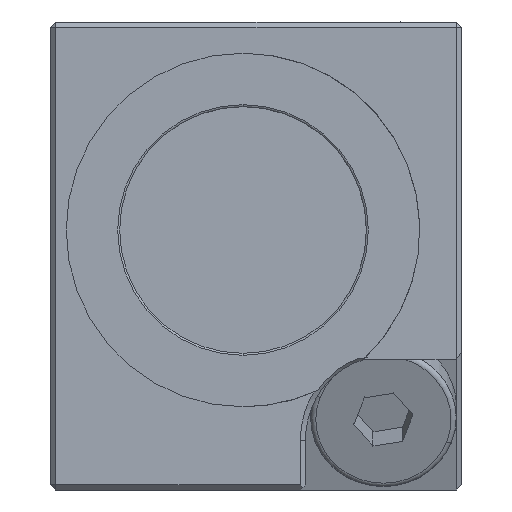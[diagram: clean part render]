
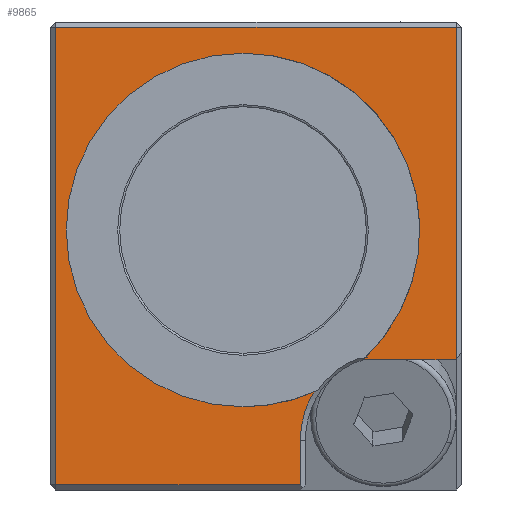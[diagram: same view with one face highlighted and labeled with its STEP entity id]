
A CAD part, left-side view. The second image highlights one B-rep face of the part: STEP entity #9865.
In plain terms, the highlighted planar face has unit normal (-1, 0, 0).
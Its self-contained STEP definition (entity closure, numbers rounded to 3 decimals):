
#8 = CARTESIAN_POINT ( 'NONE',  ( 0., 19.75, -22.5 ) ) ;
#59 = DIRECTION ( 'NONE',  ( -1., 0., 0. ) ) ;
#254 = DIRECTION ( 'NONE',  ( -1., 0., 0. ) ) ;
#579 = CARTESIAN_POINT ( 'NONE',  ( 0., -19.25, 22. ) ) ;
#657 = CARTESIAN_POINT ( 'NONE',  ( 0., -5.142, -13.763 ) ) ;
#699 = ORIENTED_EDGE ( 'NONE', *, *, #7043, .T. ) ;
#800 = CARTESIAN_POINT ( 'NONE',  ( 0., 19.25, 22. ) ) ;
#989 = ORIENTED_EDGE ( 'NONE', *, *, #10029, .F. ) ;
#1006 = LINE ( 'NONE', #6720, #6787 ) ;
#1157 = CARTESIAN_POINT ( 'NONE',  ( 0., 19.75, -9.957 ) ) ;
#1168 = CARTESIAN_POINT ( 'NONE',  ( 0., -4.81, -14.521 ) ) ;
#1239 = CARTESIAN_POINT ( 'NONE',  ( 0., 1.25, -14.5 ) ) ;
#1292 = DIRECTION ( 'NONE',  ( 0., -1., 0. ) ) ;
#1330 = VERTEX_POINT ( 'NONE', #4570 ) ;
#1344 = CARTESIAN_POINT ( 'NONE',  ( 0., -4.25, -22. ) ) ;
#1561 = CIRCLE ( 'NONE', #3744, 17. ) ;
#1585 = EDGE_LOOP ( 'NONE', ( #9402, #10002, #699, #5467, #3261, #3348, #10169, #8091, #5704, #989 ) ) ;
#1592 = DIRECTION ( 'NONE',  ( -1., 0., 0. ) ) ;
#1617 = CARTESIAN_POINT ( 'NONE',  ( 0., 19.25, -22. ) ) ;
#2166 = VERTEX_POINT ( 'NONE', #4770 ) ;
#2189 = LINE ( 'NONE', #4680, #3800 ) ;
#2255 = AXIS2_PLACEMENT_3D ( 'NONE', #3350, #4970, #6612 ) ;
#2321 = CARTESIAN_POINT ( 'NONE',  ( 0., -5.57, -13.072 ) ) ;
#2482 = PLANE ( 'NONE',  #8129 ) ;
#2678 = CARTESIAN_POINT ( 'NONE',  ( 0., -4.25, -22. ) ) ;
#2686 = EDGE_CURVE ( 'NONE', #4697, #10084, #1006, .T. ) ;
#2789 = LINE ( 'NONE', #1157, #3087 ) ;
#2837 = EDGE_CURVE ( 'NONE', #3274, #2937, #7874, .T. ) ;
#2937 = VERTEX_POINT ( 'NONE', #579 ) ;
#3087 = VECTOR ( 'NONE', #8455, 1000. ) ;
#3217 = CARTESIAN_POINT ( 'NONE',  ( 0., 19.75, 22. ) ) ;
#3261 = ORIENTED_EDGE ( 'NONE', *, *, #5411, .T. ) ;
#3274 = VERTEX_POINT ( 'NONE', #9201 ) ;
#3348 = ORIENTED_EDGE ( 'NONE', *, *, #2686, .T. ) ;
#3350 = CARTESIAN_POINT ( 'NONE',  ( 0., 1.25, 2.5 ) ) ;
#3592 = CIRCLE ( 'NONE', #2255, 17. ) ;
#3639 = CARTESIAN_POINT ( 'NONE',  ( 0., -19.25, 22.5 ) ) ;
#3744 = AXIS2_PLACEMENT_3D ( 'NONE', #7497, #254, #7554 ) ;
#3776 = LINE ( 'NONE', #1344, #8200 ) ;
#3800 = VECTOR ( 'NONE', #7951, 1000. ) ;
#3941 = CARTESIAN_POINT ( 'NONE',  ( 0., -5.57, -13.072 ) ) ;
#3972 = LINE ( 'NONE', #3217, #5705 ) ;
#4253 = EDGE_CURVE ( 'NONE', #3274, #1330, #2789, .T. ) ;
#4376 = EDGE_CURVE ( 'NONE', #2166, #8490, #9320, .T. ) ;
#4504 = VERTEX_POINT ( 'NONE', #2321 ) ;
#4514 = EDGE_CURVE ( 'NONE', #8490, #4504, #3592, .T. ) ;
#4570 = CARTESIAN_POINT ( 'NONE',  ( 0., -10.318, -9.957 ) ) ;
#4611 = VERTEX_POINT ( 'NONE', #800 ) ;
#4680 = CARTESIAN_POINT ( 'NONE',  ( 0., 19.25, -22.5 ) ) ;
#4697 = VERTEX_POINT ( 'NONE', #2678 ) ;
#4770 = CARTESIAN_POINT ( 'NONE',  ( 0., 1.25, 19.5 ) ) ;
#4970 = DIRECTION ( 'NONE',  ( -1., 0., 0. ) ) ;
#5143 = EDGE_CURVE ( 'NONE', #4611, #7982, #2189, .T. ) ;
#5245 = DIRECTION ( 'NONE',  ( 0., 0., 1. ) ) ;
#5345 = CARTESIAN_POINT ( 'NONE',  ( 0., -4.25, -17.757 ) ) ;
#5411 = EDGE_CURVE ( 'NONE', #7982, #4697, #3776, .T. ) ;
#5450 = DIRECTION ( 'NONE',  ( 0., 0., 1. ) ) ;
#5467 = ORIENTED_EDGE ( 'NONE', *, *, #5143, .T. ) ;
#5704 = ORIENTED_EDGE ( 'NONE', *, *, #4376, .F. ) ;
#5705 = VECTOR ( 'NONE', #8042, 1000. ) ;
#6038 = CARTESIAN_POINT ( 'NONE',  ( 0., -4.25, -16.931 ) ) ;
#6358 = FACE_OUTER_BOUND ( 'NONE', #1585, .T. ) ;
#6450 = VECTOR ( 'NONE', #6938, 1000. ) ;
#6612 = DIRECTION ( 'NONE',  ( 0., 0., 1. ) ) ;
#6720 = CARTESIAN_POINT ( 'NONE',  ( 0., -4.25, -17.939 ) ) ;
#6787 = VECTOR ( 'NONE', #5245, 1000. ) ;
#6839 = B_SPLINE_CURVE_WITH_KNOTS ( 'NONE', 3,
 ( #8416, #6038, #7616, #1168, #657, #3941 ),
 .UNSPECIFIED., .F., .F.,
 ( 4, 2, 4 ),
 ( 0., 0.5, 1. ),
 .UNSPECIFIED. ) ;
#6938 = DIRECTION ( 'NONE',  ( 0., 0., 1. ) ) ;
#7043 = EDGE_CURVE ( 'NONE', #2937, #4611, #3972, .T. ) ;
#7497 = CARTESIAN_POINT ( 'NONE',  ( 0., 1.25, 2.5 ) ) ;
#7554 = DIRECTION ( 'NONE',  ( 0., 0., 1. ) ) ;
#7616 = CARTESIAN_POINT ( 'NONE',  ( 0., -4.364, -16.102 ) ) ;
#7874 = LINE ( 'NONE', #3639, #6450 ) ;
#7951 = DIRECTION ( 'NONE',  ( 0., 0., -1. ) ) ;
#7982 = VERTEX_POINT ( 'NONE', #1617 ) ;
#8039 = DIRECTION ( 'NONE',  ( 0., 0., 1. ) ) ;
#8042 = DIRECTION ( 'NONE',  ( 0., 1., 0. ) ) ;
#8060 = EDGE_CURVE ( 'NONE', #10084, #4504, #6839, .T. ) ;
#8091 = ORIENTED_EDGE ( 'NONE', *, *, #4514, .F. ) ;
#8129 = AXIS2_PLACEMENT_3D ( 'NONE', #8, #59, #8039 ) ;
#8200 = VECTOR ( 'NONE', #1292, 1000. ) ;
#8416 = CARTESIAN_POINT ( 'NONE',  ( 0., -4.25, -17.757 ) ) ;
#8455 = DIRECTION ( 'NONE',  ( 0., 1., 0. ) ) ;
#8490 = VERTEX_POINT ( 'NONE', #1239 ) ;
#8981 = AXIS2_PLACEMENT_3D ( 'NONE', #9391, #1592, #5450 ) ;
#9201 = CARTESIAN_POINT ( 'NONE',  ( 0., -19.25, -9.957 ) ) ;
#9320 = CIRCLE ( 'NONE', #8981, 17. ) ;
#9391 = CARTESIAN_POINT ( 'NONE',  ( 0., 1.25, 2.5 ) ) ;
#9402 = ORIENTED_EDGE ( 'NONE', *, *, #4253, .F. ) ;
#9865 = ADVANCED_FACE ( 'NONE', ( #6358 ), #2482, .T. ) ;
#10002 = ORIENTED_EDGE ( 'NONE', *, *, #2837, .T. ) ;
#10029 = EDGE_CURVE ( 'NONE', #1330, #2166, #1561, .T. ) ;
#10084 = VERTEX_POINT ( 'NONE', #5345 ) ;
#10169 = ORIENTED_EDGE ( 'NONE', *, *, #8060, .T. ) ;
